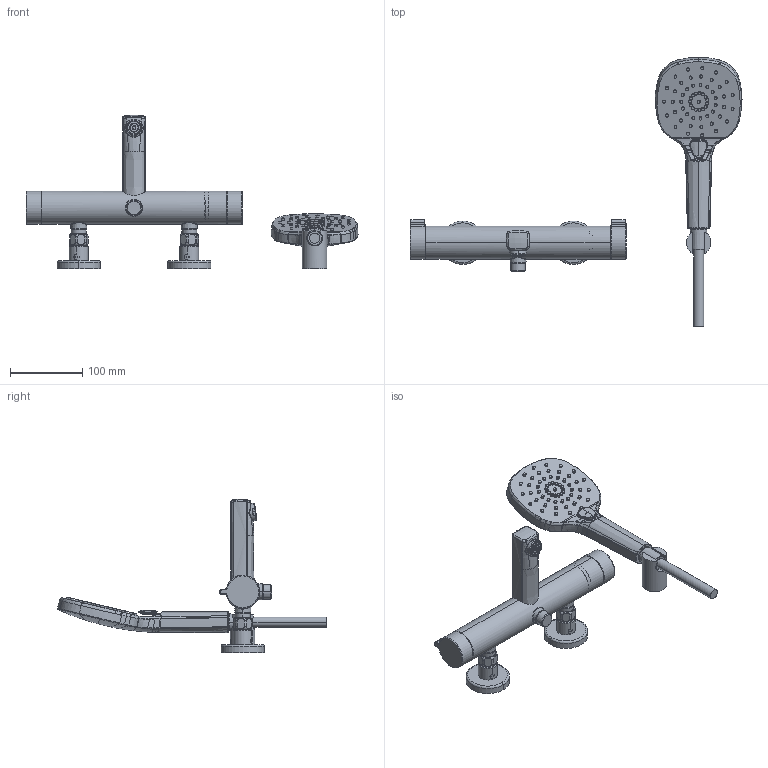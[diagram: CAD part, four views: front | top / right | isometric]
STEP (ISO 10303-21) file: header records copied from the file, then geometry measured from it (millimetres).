
FILE_DESCRIPTION((''),'2;1');
FILE_NAME('26009703_SW0001','2020-05-20T12:50:59',('LF994'),(''),'CREO PARAMETRIC BY PTC INC, 2018500','CREO PARAMETRIC BY PTC INC, 2018500','');
FILE_SCHEMA(('CONFIG_CONTROL_DESIGN'));
Length unit declared in the file: millimetre
Products named in the file (1): 26009703_SW0001
Bounding box: 459.55 x 372.75 x 211.95 mm (x, y, z)
Volume: 773588.2 mm3; surface area: 186513.7 mm2
Topology: 7 solids, 8 shells, 1035 faces, 2439 edges, 1516 vertices
Faces by surface type: bspline 361, cylinder 298, plane 167, torus 142, cone 44, extrusion 13, sphere 10
Entity records: 48727 total; most frequent: CARTESIAN_POINT 27727, ORIENTED_EDGE 4868, DIRECTION 3534, EDGE_CURVE 2434, AXIS2_PLACEMENT_3D 1539, VERTEX_POINT 1516, EDGE_LOOP 1140, B_SPLINE_CURVE_WITH_KNOTS 1126
